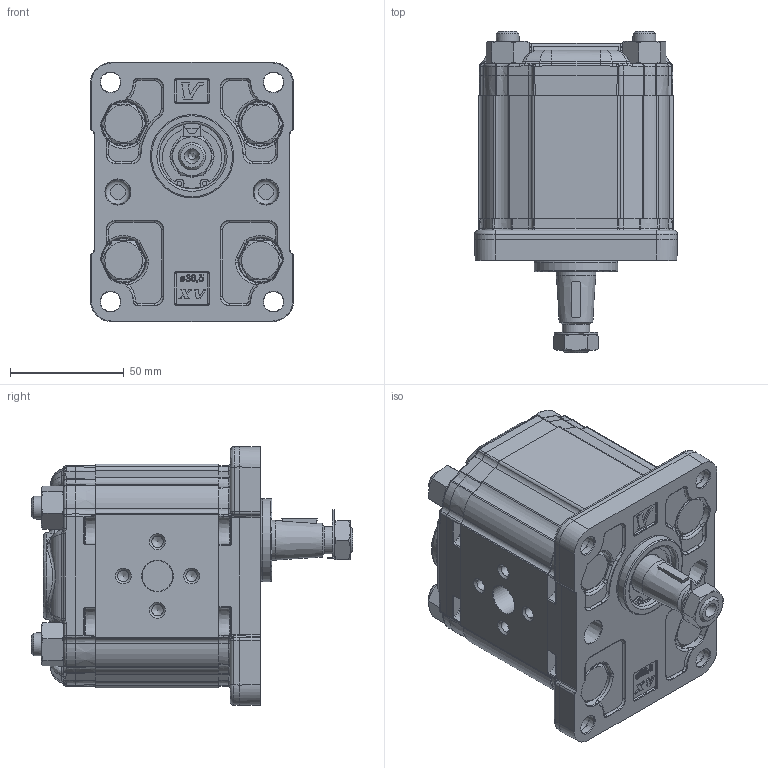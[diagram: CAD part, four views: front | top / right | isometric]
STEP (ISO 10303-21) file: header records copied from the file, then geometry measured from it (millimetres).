
FILE_DESCRIPTION(/* description */ ('Unknown'),/* implementation_level */ '2;1');
FILE_NAME(/* name */ 'X2U4501EOOA',/* time_stamp */ '2026-06-03T18:00:30+02:00',/* author */ ('Unknown'),/* organization */ ('Unknown'),/* preprocessor_version */ 'ST-DEVELOPER v16.7',/* originating_system */ 'Solid Edge',/* authorisation */ 'Unknown');
FILE_SCHEMA (('AUTOMOTIVE_DESIGN {1 0 10303 214 3 1 1}'));
Products named in the file (5): X2U4501EOOA; X2U01; 2E; X2OOH54; XU201-A
Assembly tree (4 placements, depth 2):
  X2U4501EOOA
    X2U01
    2E
    X2OOH54
    XU201-A
Bounding box: 89 x 140.95 x 113.7 mm (x, y, z)
Volume: 694044.2 mm3; surface area: 116400.3 mm2
Topology: 4 solids, 5 shells, 2453 faces, 6014 edges, 3650 vertices
Faces by surface type: cylinder 637, bspline 623, plane 597, torus 299, cone 266, sphere 31
Full cylindrical faces by diameter (mm): 2 x2, 4.917 x4, 5 x4, 8.796 x4, 8.798 x4, 10 x12, 10.5 x12, 11.5 x4, 12 x2, 12.5 x1, 13.5 x2, 16 x4, 17.42 x1, 18 x1, 20.595 x1, 23.332 x1, 25 x1, 25.834 x1, 28.5 x1, 28.56 x1, 28.57 x1, 28.8 x1, 30.5 x1, 36.5 x1
Entity records: 111303 total; most frequent: CARTESIAN_POINT 42903, ORIENTED_EDGE 11254, DIRECTION 9117, EDGE_CURVE 5627, AXIS2_PLACEMENT_3D 3633, VERTEX_POINT 3538, FACE_BOUND 2849, EDGE_LOOP 2839
